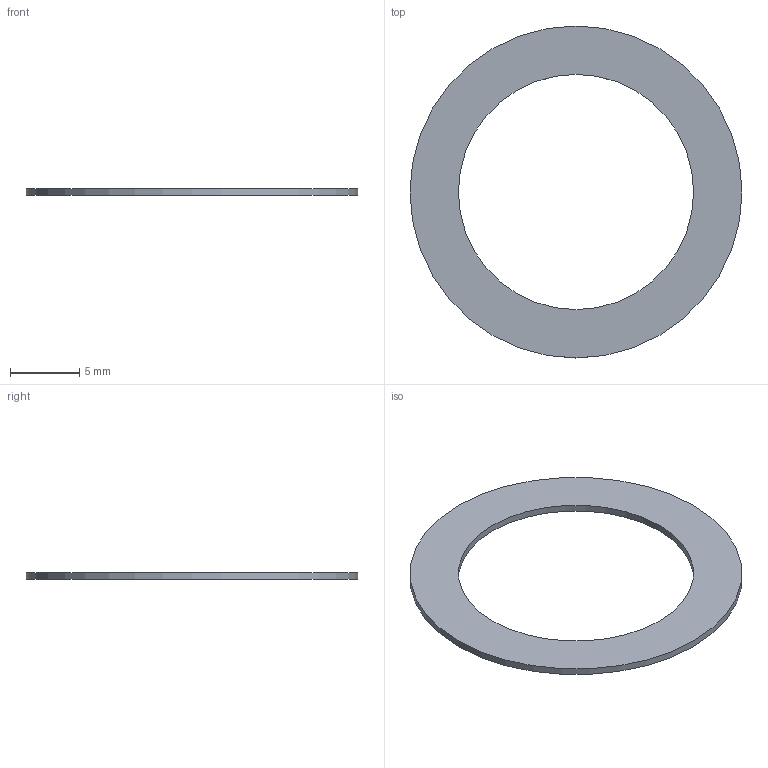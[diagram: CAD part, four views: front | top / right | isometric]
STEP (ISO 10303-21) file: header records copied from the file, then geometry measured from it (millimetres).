
FILE_DESCRIPTION(('FreeCAD Model'),'2;1');
FILE_NAME('Open CASCADE Shape Model','2026-09-19T17:54:12',('FreeCAD'),( 'FreeCAD'),'Open CASCADE STEP processor 7.8','FreeCAD','Unknown');
FILE_SCHEMA(('AUTOMOTIVE_DESIGN { 1 0 10303 214 1 1 1 1 }'));
Length unit declared in the file: millimetre
Products named in the file (1): Open CASCADE STEP translator 7.8 15
Bounding box: 24 x 24 x 0.5 mm (x, y, z)
Volume: 113 mm3; surface area: 515.4 mm2
Topology: 1 solids, 1 shells, 4 faces, 6 edges, 4 vertices
Faces by surface type: cylinder 2, plane 2
Full cylindrical faces by diameter (mm): 17 x1, 24 x1
Entity records: 108 total; most frequent: DIRECTION 20, CARTESIAN_POINT 15, ORIENTED_EDGE 12, AXIS2_PLACEMENT_3D 9, FACE_BOUND 6, EDGE_LOOP 6, EDGE_CURVE 6, ADVANCED_FACE 4
